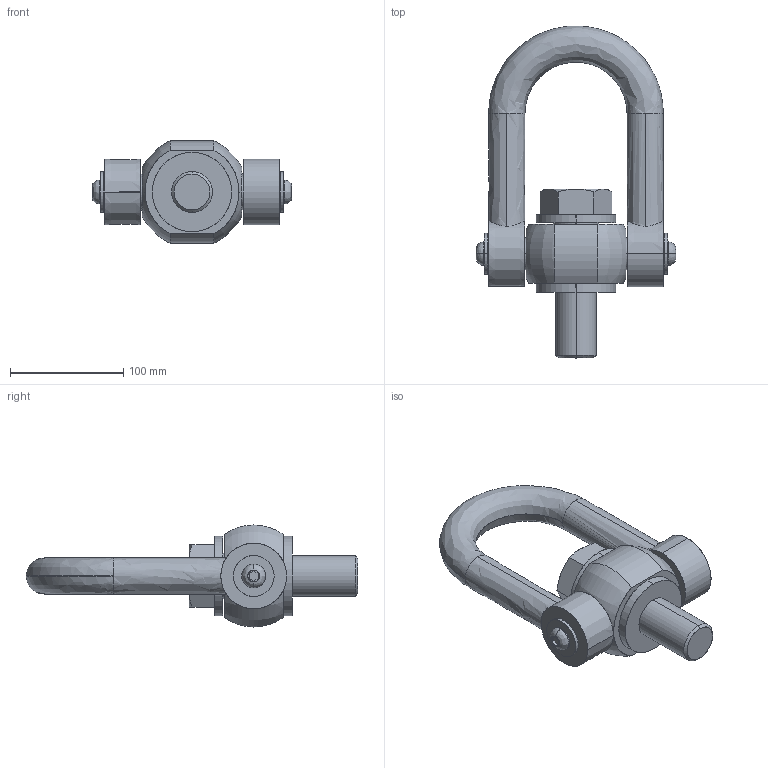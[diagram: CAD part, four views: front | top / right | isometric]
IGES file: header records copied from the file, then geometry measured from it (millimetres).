
Start section: SolidWorks IGES FILE using analytic representation for surfaces
Global section: file name: C:\Documents and Settings\user\デスクトップ\EB-903-36.IGS; native system: SolidWorks 2003 by SolidWorks Corporation; preprocessor: Version 5.3; author: user; date: 130725.104931; units: millimetre
Bounding box: 176 x 292.91 x 90 mm (x, y, z)
Surface area: 153803.8 mm2 (no closed solid volume)
Topology: 0 solids, 0 shells, 97 faces, 2962 edges, 2962 vertices
Faces by surface type: revolution 50, bspline 47
